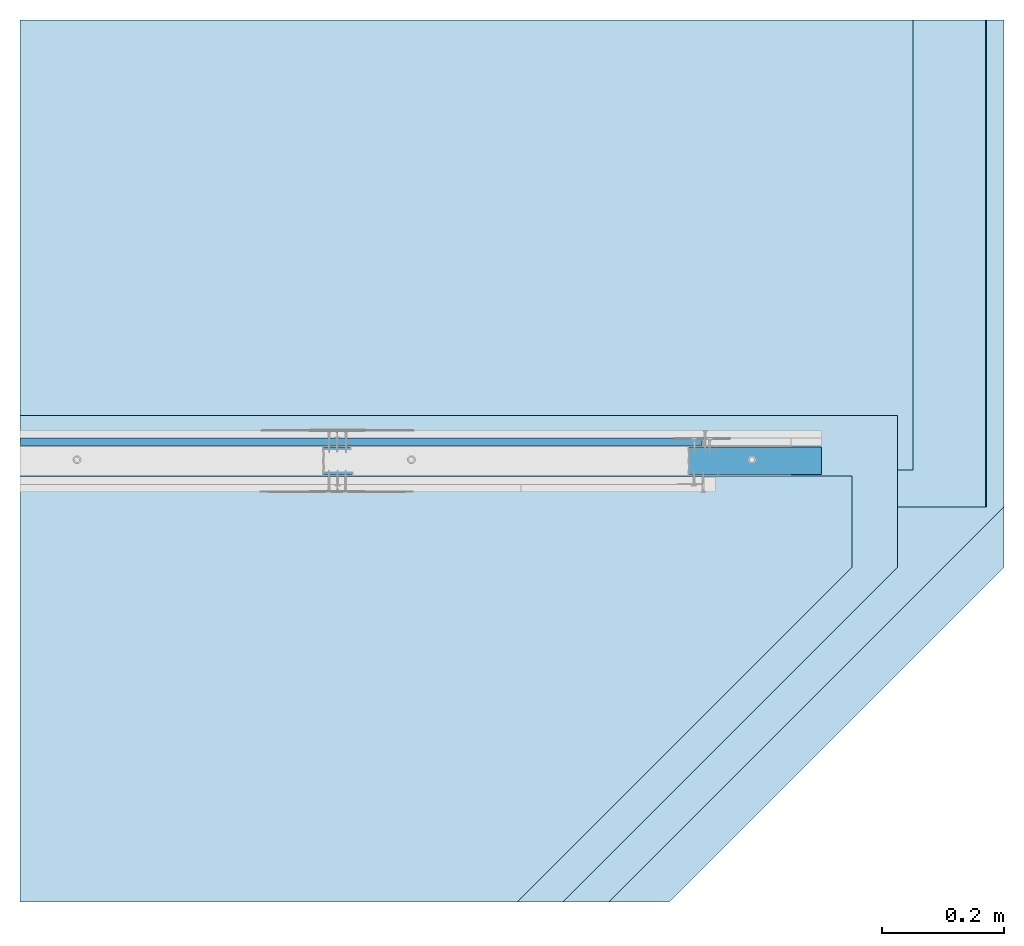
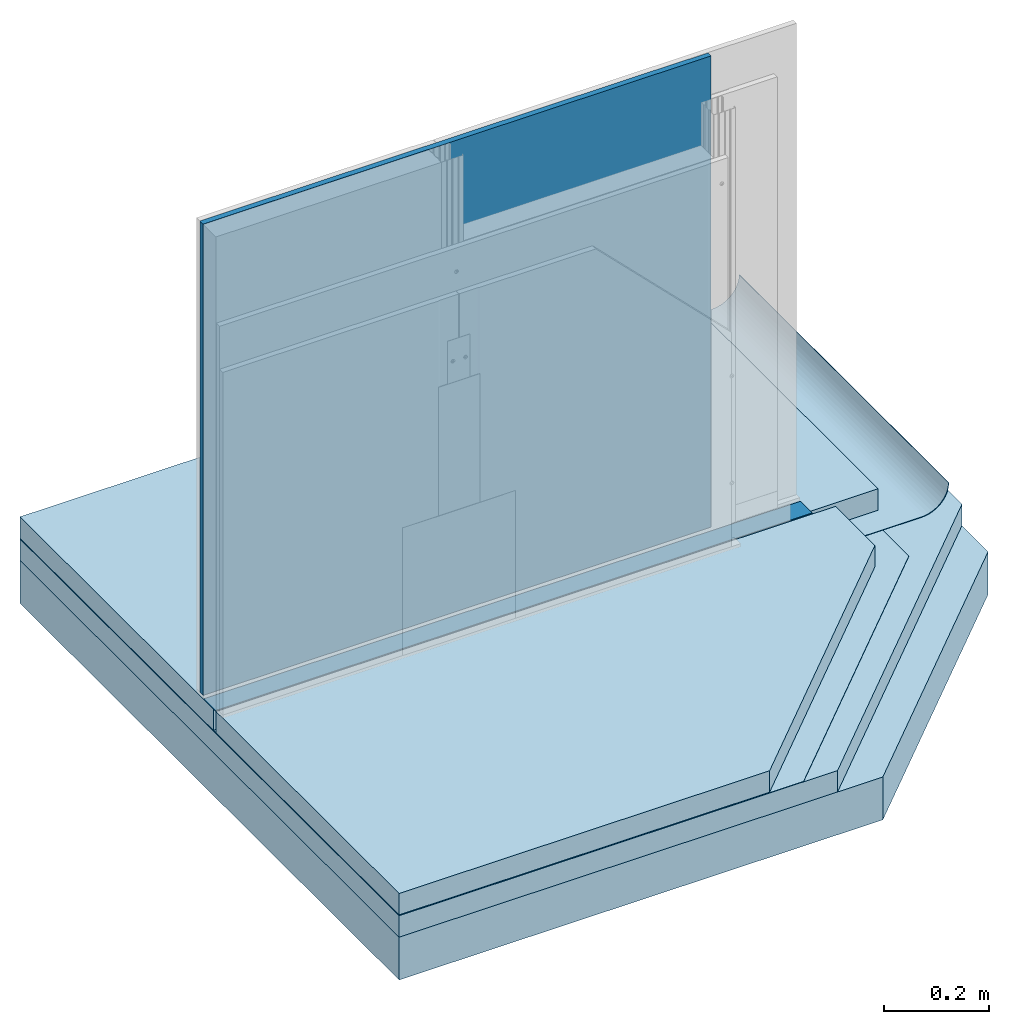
# One storey, part 1 of 36: 6 slabs, 2 walls.
"""IFC2X3 building model written with IfcOpenShell, lengths in millimetres."""

import ifcopenshell
import ifcopenshell.guid

model = None  # the IFC model being written
_history = None  # IfcOwnerHistory: only IFC2X3 demands one
_inside = {}  # id of a spatial element -> (the spatial element, [elements in it])
_under = {}  # id of a project, library or spatial element -> (it, [spatial elements below it])
_declared = {}  # id of a project -> (the project, [libraries it declares])
_typed = {}  # id of a type object -> (the type object, [elements of that type])
_made_of = {}  # id of a material, layer set ... -> (it, [elements and type objects made of it])


def new_model(schema):
    """Start an empty IFC model of exactly this schema.

    Asked for "IFC4X3", IfcOpenShell would pick the latest addendum, in which some entities
    have other attributes; the version numbers below select the first issue.
    IFC2X3 requires an IfcOwnerHistory on every rooted entity: one is made here for all.
    """
    global model, _history
    if schema == "IFC4X3":
        model = ifcopenshell.file(schema_version=(4, 3, 0, 0))
    else:
        model = ifcopenshell.file(schema=schema)
    _inside.clear()
    _under.clear()
    _declared.clear()
    _typed.clear()
    _made_of.clear()
    _history = None
    if model.schema == "IFC2X3":
        org = make("IfcOrganization", Name="unknown")
        user = make(
            "IfcPersonAndOrganization",
            ThePerson=make("IfcPerson", FamilyName="unknown"),
            TheOrganization=org,
        )
        app = make(
            "IfcApplication",
            ApplicationDeveloper=org,
            Version="unknown",
            ApplicationFullName="unknown",
            ApplicationIdentifier="unknown",
        )
        _history = make(
            "IfcOwnerHistory",
            OwningUser=user,
            OwningApplication=app,
            ChangeAction="ADDED",
            CreationDate=0,
        )
    return model


def make(cls, **values):
    """One entity of the class cls with the attributes given. An attribute that is None is left unset."""
    return model.create_entity(
        cls, **{name: value for name, value in values.items() if value is not None}
    )


def entity(cls, *values):
    """Any entity or typed value of the class cls, its attributes in the order of the schema. None: left unset."""
    e = model.create_entity(cls)
    for i, value in enumerate(values):
        if value is not None:
            e[i] = value
    return e


def rooted(cls, **values):
    """An entity with a GlobalId (a new one), such as an element, a storey or a relation."""
    return make(cls, GlobalId=ifcopenshell.guid.new(), OwnerHistory=_history, **values)


def si_unit(unit_type, name, prefix=None):
    """IfcSIUnit, for example si_unit("LENGTHUNIT", "METRE", prefix="MILLI")."""
    return make("IfcSIUnit", UnitType=unit_type, Prefix=prefix, Name=name)


def converted_unit(unit_type, name, factor, base, dimensions=None, offset=None):
    """IfcConversionBasedUnit, such as the inch: factor (a typed value) times the base unit."""
    return make(
        "IfcConversionBasedUnit"
        if offset is None
        else "IfcConversionBasedUnitWithOffset",
        ConversionOffset=offset,
        Dimensions=None
        if dimensions is None
        else entity("IfcDimensionalExponents", *dimensions),
        UnitType=unit_type,
        Name=name,
        ConversionFactor=make(
            "IfcMeasureWithUnit", ValueComponent=factor, UnitComponent=base
        ),
    )


def assignment(units):
    """IfcUnitAssignment: the units of a project."""
    return None if units is None else make("IfcUnitAssignment", Units=units)


def point(xyz):
    """IfcCartesianPoint."""
    return None if xyz is None else make("IfcCartesianPoint", Coordinates=xyz)


def direction(xyz):
    """IfcDirection."""
    return None if xyz is None else make("IfcDirection", DirectionRatios=xyz)


def frame(location, z_axis=None, x_axis=None):
    """IfcAxis2Placement3D, a coordinate frame: its origin and axes. An axis left out is left unset."""
    return make(
        "IfcAxis2Placement3D",
        Location=point(location),
        Axis=direction(z_axis),
        RefDirection=direction(x_axis),
    )


def origin():
    """The frame at (0, 0, 0) with its axes left unset."""
    return frame((0.0, 0.0, 0.0))


def origin_with_axes():
    """The frame at (0, 0, 0) with the z axis (0, 0, 1) and the x axis (1, 0, 0) written out."""
    return frame((0.0, 0.0, 0.0), z_axis=(0.0, 0.0, 1.0), x_axis=(1.0, 0.0, 0.0))


def place(relative_to, where):
    """IfcLocalPlacement: puts the frame where relative to a parent placement (None: the world)."""
    return make(
        "IfcLocalPlacement", PlacementRelTo=relative_to, RelativePlacement=where
    )


def context(
    kind, dimensions, precision=None, world=None, true_north=None, identifier=None
):
    """IfcGeometricRepresentationContext, for example the 3D "Model" context."""
    return make(
        "IfcGeometricRepresentationContext",
        ContextIdentifier=identifier,
        ContextType=kind,
        CoordinateSpaceDimension=dimensions,
        Precision=precision,
        WorldCoordinateSystem=world,
        TrueNorth=true_north,
    )


def project(units=None, contexts=None):
    """IfcProject with its units and contexts."""
    return rooted(
        "IfcProject",
        Name="project",
        RepresentationContexts=contexts,
        UnitsInContext=assignment(units),
    )


def spatial(cls, under=None, at=None, **own):
    """A site, building, storey or space (cls), placed at a placement, below another one or the project."""
    s = rooted(cls, ObjectPlacement=at, **own)
    if under is not None:
        _under.setdefault(under.id(), (under, []))[1].append(s)
    return s


def faces_of(points, faces, orient=None, outer=None):
    """IfcFace entities. A face is a list of loops; a loop is a list of indices into points, from 0.

    orient and outer hold one flag for each loop. By default every Orientation is true, the
    first loop of a face is its IfcFaceOuterBound and the others are IfcFaceBound.
    """
    made = []
    for i, loops in enumerate(faces):
        bounds = []
        for j, loop in enumerate(loops):
            is_outer = j == 0 if outer is None else outer[i][j]
            bounds.append(
                make(
                    "IfcFaceOuterBound" if is_outer else "IfcFaceBound",
                    Bound=make("IfcPolyLoop", Polygon=[points[k] for k in loop]),
                    Orientation=True if orient is None else orient[i][j],
                )
            )
        made.append(make("IfcFace", Bounds=bounds))
    return made


def faceted_brep(points, faces, orient=None, outer=None, voids=None):
    """IfcFacetedBrep: a solid bounded by flat faces; with voids (closed shells), ...WithVoids."""
    shared = [point(p) for p in points]
    hull = make("IfcClosedShell", CfsFaces=faces_of(shared, faces, orient, outer))
    if voids is None:
        return make("IfcFacetedBrep", Outer=hull)
    return make(
        "IfcFacetedBrepWithVoids",
        Outer=hull,
        Voids=[
            make(cls, CfsFaces=faces_of(shared, fs, o, b)) for cls, fs, o, b in voids
        ],
    )


def shape(context_of_items, identifier, shape_type, items):
    """IfcShapeRepresentation: the items that make up one representation, for example the "Body"."""
    return make(
        "IfcShapeRepresentation",
        ContextOfItems=context_of_items,
        RepresentationIdentifier=identifier,
        RepresentationType=shape_type,
        Items=items,
    )


def made_of(thing, what):
    """Note that an element or type object is made of a material, layer set ...; save() writes the relation."""
    if what is not None:
        _made_of.setdefault(what.id(), (what, []))[1].append(thing)
    return thing


def element(
    cls,
    number,
    at=None,
    inside=None,
    cuts=None,
    type_object=None,
    material=None,
    context=None,
    identifier="Body",
    shape_type=None,
    held_by="IfcProductDefinitionShape",
    body=None,
    shapes=None,
    **own,
):
    """One element of the class cls, such as IfcWall. Its Tag is "e" and its number.

    at: its placement. inside: the storey or other place that contains it. cuts: it is an
    opening in that element (IfcRelVoidsElement). A single representation is given by context,
    identifier, shape_type and body (its items); several are given by shapes. held_by: the class
    of the entity that holds the representations. save() writes the other relations.
    """
    e = rooted(cls, Tag="e%d" % number, ObjectPlacement=at, **own)
    if body is not None:
        shapes = [shape(context, identifier, shape_type, body)]
    if shapes is not None:
        e.Representation = make(held_by, Representations=shapes)
    if inside is not None:
        _inside.setdefault(inside.id(), (inside, []))[1].append(e)
    if cuts is not None:
        rooted(
            "IfcRelVoidsElement", RelatingBuildingElement=cuts, RelatedOpeningElement=e
        )
    if type_object is not None:
        _typed.setdefault(type_object.id(), (type_object, []))[1].append(e)
    return made_of(e, material)


def aggregate(whole, parts):
    """IfcRelAggregates: a whole, such as a stair, and the parts it consists of."""
    return rooted("IfcRelAggregates", RelatingObject=whole, RelatedObjects=parts)


def save(model, path):
    """Write the relations noted so far, then the file.

    IfcRelAggregates (storeys below a building ...), IfcRelContainedInSpatialStructure (elements
    in a storey), IfcRelDefinesByType, IfcRelAssociatesMaterial and IfcRelDeclares: one each for
    every whole, place, type object, material and project.
    """
    for whole, parts in _under.values():
        aggregate(whole, parts)
    for where, things in _inside.values():
        rooted(
            "IfcRelContainedInSpatialStructure",
            RelatedElements=things,
            RelatingStructure=where,
        )
    for kind, things in _typed.values():
        rooted("IfcRelDefinesByType", RelatedObjects=things, RelatingType=kind)
    for what, things in _made_of.values():
        rooted("IfcRelAssociatesMaterial", RelatedObjects=things, RelatingMaterial=what)
    for by, libraries in _declared.values():
        rooted("IfcRelDeclares", RelatingContext=by, RelatedDefinitions=libraries)
    model.write(path)


model = new_model("IFC2X3")

# Units and contexts
model_context = context("Model", 3, precision=1e-05, world=origin(), true_north=direction((0.0, 1.0, 0.0)))
ifc_project = project(units=[si_unit("LENGTHUNIT", "METRE", prefix="MILLI"), si_unit("AREAUNIT", "SQUARE_METRE"), si_unit("VOLUMEUNIT", "CUBIC_METRE"), converted_unit("PLANEANGLEUNIT", "DEGREE", entity("IfcPlaneAngleMeasure", 0.01745), si_unit("PLANEANGLEUNIT", "RADIAN"), dimensions=[0, 0, 0, 0, 0, 0, 0]), si_unit("SOLIDANGLEUNIT", "STERADIAN"), si_unit("MASSUNIT", "GRAM"), si_unit("TIMEUNIT", "SECOND"), si_unit("THERMODYNAMICTEMPERATUREUNIT", "DEGREE_CELSIUS"), si_unit("LUMINOUSINTENSITYUNIT", "LUMEN")], contexts=[model_context])

# Site, building, storey
site_placement = place(None, origin_with_axes())
site = spatial("IfcSite", under=ifc_project, at=site_placement, Name="Default Site", CompositionType="ELEMENT")
building_placement = place(site_placement, origin_with_axes())
building = spatial("IfcBuilding", under=site, at=building_placement, Name="Default Building", CompositionType="ELEMENT")
storey_placement = place(building_placement, origin_with_axes())
storey = spatial("IfcBuildingStorey", under=building, at=storey_placement, Name="Default Building Storey", CompositionType="ELEMENT", Elevation=0.0)

# Slabs
slab_1_placement = place(storey_placement, frame((3516.951496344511, -1288.142300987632, 6.584025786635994), z_axis=(7.62017609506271e-14, 6.858158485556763e-13, 1.0), x_axis=(1.0, 9.714451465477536e-17, -7.62017609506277e-14)))
element("IfcSlab", 1, at=slab_1_placement, inside=storey, Name="STROP", context=model_context, shape_type="Brep", body=[
    faceted_brep([(226.0891218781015, 3110.283223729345, -4.200000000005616), (-323.9108781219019, 2560.283223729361, -4.200000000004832), (-323.9108781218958, 2560.283223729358, -104.1999999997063), (226.0891218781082, 3110.283223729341, -104.1999999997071), (-1391.926362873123, 2560.283223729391, -104.2000000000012), (-1391.926362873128, 2560.28322372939, -4.200000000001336), (-1391.926362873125, 4010.283223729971, -104.2000000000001), (226.0891218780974, 4010.283223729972, -104.2), (-1391.926362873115, 4010.283223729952, -4.199999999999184), (226.089121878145, 4010.283223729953, -4.200000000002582)], [[[0, 1, 2, 3]], [[4, 2, 1, 5]], [[6, 7, 3, 2, 4]], [[8, 5, 1, 0, 9]], [[0, 3, 7, 9]], [[6, 8, 9, 7]], [[6, 4, 5, 8]]]),
])
slab_2_placement = place(storey_placement, frame((3266.951496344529, -1288.142300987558, 158.5840257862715), z_axis=(7.620176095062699e-14, 6.858158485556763e-13, 1.0), x_axis=(1.0, 9.714451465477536e-17, -7.62017609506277e-14)))
element("IfcSlab", 2, at=slab_2_placement, inside=storey, Name="Wylewka betonowa WEBER", context=model_context, shape_type="Brep", body=[
    faceted_brep([(-1141.926362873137, 3260.703605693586, -54.19999999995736), (226.0891218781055, 3260.703605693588, -54.19999999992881), (226.0891218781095, 3260.703605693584, -104.1999999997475), (-1141.926362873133, 3260.703605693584, -104.199999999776), (226.0891218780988, 3110.283223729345, -54.2000000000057), (-323.9108781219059, 2560.283223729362, -54.20000000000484), (-323.9108781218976, 2560.283223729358, -104.1999999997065), (226.0891218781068, 3110.283223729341, -104.199999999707), (-1141.926362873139, 2560.283223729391, -104.1999999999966), (-1141.926362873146, 2560.283223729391, -54.19999999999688)], [[[0, 1, 2, 3]], [[4, 5, 6, 7]], [[8, 6, 5, 9]], [[8, 3, 2, 7, 6]], [[4, 1, 0, 9, 5]], [[7, 2, 1, 4]], [[0, 3, 8, 9]]]),
])
slab_3_placement = place(storey_placement, frame((3366.951496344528, -1288.14230098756, 158.5840257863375), z_axis=(7.6201760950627e-14, 6.858158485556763e-13, 1.0), x_axis=(1.0, 9.714451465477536e-17, -7.62017609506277e-14)))
element("IfcSlab", 3, at=slab_3_placement, inside=storey, Name="Wylewka betonowa WEBER", context=model_context, shape_type="Brep", body=[
    faceted_brep([(226.0891218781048, 3270.703605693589, -54.20000000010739), (-1241.926362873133, 3270.703605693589, -54.20000000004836), (-1241.926362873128, 3270.703605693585, -104.199999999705), (226.0891218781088, 3270.703605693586, -104.199999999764), (-1241.926362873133, 4010.283223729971, -104.2000000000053), (226.0891218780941, 4010.283223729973, -104.1999999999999), (-1241.926362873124, 4010.283223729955, -54.20000000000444), (226.0891218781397, 4010.283223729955, -54.20000000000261)], [[[0, 1, 2, 3]], [[4, 5, 3, 2]], [[6, 1, 0, 7]], [[0, 3, 5, 7]], [[4, 6, 7, 5]], [[4, 2, 1, 6]]]),
])
slab_4_placement = place(storey_placement, frame((3416.951496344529, -1288.14230098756, 106.5840257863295), z_axis=(7.620176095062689e-14, 6.858158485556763e-13, 1.0), x_axis=(1.0, 9.714451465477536e-17, -7.62017609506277e-14)))
element("IfcSlab", 4, at=slab_4_placement, inside=storey, Name="Wełna mineralna szklana lub skalna ISOVER", context=model_context, shape_type="Brep", body=[
    faceted_brep([(326.0891218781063, 3210.283223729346, -104.1999999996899), (326.0891218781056, 4010.283223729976, -104.1999999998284), (326.0891218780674, 4010.283223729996, -54.20000000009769), (326.0891218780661, 3210.283223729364, -54.19999999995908), (-1291.926362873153, 4010.283223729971, -54.2000000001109), (-1291.92636287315, 4010.283223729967, -104.1999999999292), (-323.9108781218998, 2560.283223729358, -104.1999999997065), (-323.9108781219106, 2560.283223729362, -54.20000000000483), (-1291.926362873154, 2560.283223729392, -104.2000000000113), (-1291.926362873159, 2560.283223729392, -54.20000000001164)], [[[0, 1, 2, 3]], [[4, 2, 1, 5]], [[6, 0, 3, 7]], [[8, 6, 7, 9]], [[5, 1, 0, 6, 8]], [[7, 3, 2, 4, 9]], [[4, 5, 8, 9]]]),
])
slab_5_placement = place(storey_placement, frame((3714.040618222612, 1821.630974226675, 53.38402578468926), z_axis=(0.0, 0.0, 1.0), x_axis=(-3.885780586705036e-16, 1.0, 0.0)))
element("IfcSlab", 5, at=slab_5_placement, inside=storey, Name="Folia budowlana PE ISOVER Stopair®", context=model_context, shape_type="Brep", body=[
    faceted_brep([(99.99999999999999, 60.9999999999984, 0.9999999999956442), (900.4900514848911, 60.99999999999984, 0.9999999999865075), (900.4900514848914, 1589.015484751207, 0.9999999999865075), (100.0000000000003, 1589.015484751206, 0.9999999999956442), (100.0000000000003, 1589.015484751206, -4.354028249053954e-12), (900.4900514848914, 1589.015484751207, -1.349071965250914e-11), (99.99999999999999, 52.16842846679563, 0.5133083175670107), (99.99999999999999, 59.99999999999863, -4.354028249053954e-12), (900.4900514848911, 60.00000000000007, -1.349071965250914e-11), (900.4900514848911, 52.16842846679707, 0.513308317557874), (99.99999999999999, 44.4708572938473, 2.044450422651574), (900.4900514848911, 44.47085729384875, 2.044450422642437), (99.99999999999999, 37.03899405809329, 4.567228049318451), (900.4900514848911, 37.03899405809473, 4.567228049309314), (99.99999999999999, 29.99999999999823, 8.038475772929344), (900.4900514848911, 29.99999999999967, 8.038475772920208), (99.99999999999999, 23.4743142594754, 12.39879958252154), (900.4900514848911, 23.47431425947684, 12.3987995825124), (99.99999999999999, 17.57359312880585, 17.57359312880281), (900.4900514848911, 17.57359312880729, 17.57359312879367), (99.99999999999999, 12.39879958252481, 23.4743142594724), (900.4900514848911, 12.39879958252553, 23.47431425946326), (99.99999999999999, 8.038475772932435, 29.99999999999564), (900.4900514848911, 8.038475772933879, 29.9999999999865), (100.0000000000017, 4.567228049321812, 37.03899405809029), (900.4900514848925, 4.567228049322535, 37.03899405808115), (100.0000000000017, 2.044450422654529, 44.47085729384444), (900.4900514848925, 2.044450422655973, 44.4708572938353), (100.0000000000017, 0.5133083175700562, 52.16842846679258), (900.4900514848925, 0.5133083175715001, 52.16842846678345), (100.0000000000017, -1.443822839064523e-12, 59.99999999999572), (900.4900514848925, 0.0, 59.99999999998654), (100.0000000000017, 1.065543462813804, 59.99999999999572), (900.4900514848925, 1.065543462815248, 59.99999999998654), (100.0000000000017, 1.513308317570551, 53.16842846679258), (900.4900514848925, 1.513308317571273, 53.16842846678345), (100.0000000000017, 3.044450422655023, 45.47085729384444), (900.4900514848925, 3.044450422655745, 45.4708572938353), (100.0000000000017, 5.567228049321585, 38.03899405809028), (900.4900514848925, 5.567228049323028, 38.03899405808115), (99.99999999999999, 9.038475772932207, 30.99999999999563), (900.4900514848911, 9.038475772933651, 30.9999999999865), (99.99999999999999, 13.39879958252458, 24.47431425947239), (900.4900514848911, 13.39879958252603, 24.47431425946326), (99.99999999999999, 18.57359312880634, 18.5735931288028), (900.4900514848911, 18.57359312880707, 18.57359312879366), (99.99999999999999, 24.47431425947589, 13.39879958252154), (900.4900514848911, 24.47431425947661, 13.3987995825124), (99.99999999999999, 30.99999999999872, 9.038475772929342), (900.4900514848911, 31.00000000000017, 9.038475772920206), (99.99999999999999, 38.03899405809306, 5.567228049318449), (900.4900514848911, 38.0389940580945, 5.567228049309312), (99.99999999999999, 45.47085729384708, 3.044450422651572), (900.4900514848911, 45.47085729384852, 3.044450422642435), (99.99999999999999, 53.1684284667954, 1.513308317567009), (900.4900514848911, 53.16842846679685, 1.513308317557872)], [[[0, 1, 2, 3]], [[4, 3, 2, 5]], [[6, 7, 8, 9]], [[10, 6, 9, 11]], [[12, 10, 11, 13]], [[14, 12, 13, 15]], [[16, 14, 15, 17]], [[18, 16, 17, 19]], [[20, 18, 19, 21]], [[22, 20, 21, 23]], [[24, 22, 23, 25]], [[26, 24, 25, 27]], [[28, 26, 27, 29]], [[30, 28, 29, 31]], [[32, 30, 31, 33]], [[34, 32, 33, 35]], [[36, 34, 35, 37]], [[38, 36, 37, 39]], [[40, 38, 39, 41]], [[42, 40, 41, 43]], [[44, 42, 43, 45]], [[46, 44, 45, 47]], [[48, 46, 47, 49]], [[50, 48, 49, 51]], [[52, 50, 51, 53]], [[54, 52, 53, 55]], [[0, 54, 55, 1]], [[7, 4, 5, 8]], [[8, 5, 2, 1, 55, 53, 51, 49, 47, 45, 43, 41, 39, 37, 35, 33, 31, 29, 27, 25, 23, 21, 19, 17, 15, 13, 11, 9]], [[4, 7, 6, 10, 12, 14, 16, 18, 20, 22, 24, 26, 28, 30, 32, 34, 36, 38, 40, 42, 44, 46, 48, 50, 52, 54, 0, 3]]]),
])
slab_6_placement = place(storey_placement, frame((3325.296962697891, 1171.140922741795, 52.38402578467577), z_axis=(0.0, 0.0, 1.0), x_axis=(-3.885780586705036e-16, 1.0, 0.0)))
element("IfcSlab", 6, at=slab_6_placement, inside=storey, Name="Folia budowlana PE ISOVER Stopair®", context=model_context, shape_type="Brep", body=[
    faceted_brep([(650.980102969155, -242.7237584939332, 0.99999999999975), (101.0000000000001, 307.2563444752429, 1.000000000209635), (101.0000000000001, 307.2563444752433, 2.098731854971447e-10), (650.980102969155, -242.7237584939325, 0.0), (101.0000000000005, 1200.271829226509, 0.9999999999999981), (900.4900514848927, -242.7237584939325, 0.9999999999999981), (900.4900514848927, 1200.271829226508, 0.9999999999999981), (101.0000000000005, 1200.271829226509, 0.0), (900.4900514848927, -242.7237584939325, 0.0), (900.4900514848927, 1200.271829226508, 0.0)], [[[0, 1, 2, 3]], [[4, 1, 0, 5, 6]], [[7, 2, 1, 4]], [[8, 3, 2, 7, 9]], [[5, 8, 9, 6]], [[4, 6, 9, 7]], [[0, 3, 8, 5]]]),
])

# Walls
wall_1_placement = place(storey_placement, frame((3247.741854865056, 5452.424146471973, 110.3903952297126), z_axis=(6.44634805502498e-14, -6.858158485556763e-13, 1.0), x_axis=(1.0, -1.14833748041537e-16, -9.007748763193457e-14)))
element("IfcWall", 7, at=wall_1_placement, inside=storey, Name="Taśma uszczelniająca piankowa RIGIPS", context=model_context, shape_type="Brep", body=[
    faceted_brep([(-1122.716721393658, -3477.783223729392, -5.000000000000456), (-1122.716721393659, -3477.862841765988, -6.00636944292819), (-1122.716721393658, -3432.691889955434, -5.864971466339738), (-1122.716721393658, -3432.783223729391, -5.000000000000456), (195.2987633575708, -3477.862841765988, -6.006369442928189), (195.2987633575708, -3477.783223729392, -5.000000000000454), (195.2987633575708, -3432.783223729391, -5.000000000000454), (195.2987633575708, -3432.691889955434, -5.864971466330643)], [[[0, 1, 2, 3]], [[4, 5, 6, 7]], [[5, 0, 3, 6]], [[6, 3, 2, 7]], [[7, 2, 1, 4]], [[4, 1, 0, 5]]]),
])
wall_2_placement = place(storey_placement, frame((3246.843862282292, 2022.140922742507, 1517.555457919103), z_axis=(0.0, 0.0, 1.0), x_axis=(-1.0, -8.049116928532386e-16, 0.0)))
element("IfcWall", 8, at=wall_2_placement, inside=storey, Name="Płyta gipsowo-kartonowa RIGIPS PRO (4PRO™)", context=model_context, shape_type="Brep", body=[
    faceted_brep([(1121.818728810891, -12.50000000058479, -305.5554579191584), (1121.818728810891, 3.609557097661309e-13, -305.5554579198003), (1121.818728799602, -3.495134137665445e-09, -1405.557039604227), (1121.818728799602, -12.50000000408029, -1405.557039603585), (44.99999999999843, -12.50000000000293, -305.5554579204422), (44.99999999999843, -12.50000000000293, -1405.557039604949), (40.99999999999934, -11.50000000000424, -305.5554579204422), (40.99999999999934, -11.50000000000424, -1405.557039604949), (0.9999999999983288, -11.5000000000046, -305.5554579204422), (0.9999999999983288, -11.5000000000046, -1405.557039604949), (0.7411809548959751, -11.46592582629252, -305.5554579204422), (0.7411809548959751, -11.46592582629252, -1405.557039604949), (0.4999999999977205, -11.3660254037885, -305.5554579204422), (0.4999999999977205, -11.3660254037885, -1405.557039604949), (0.29289321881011, -11.20710678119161, -305.5554579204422), (0.29289321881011, -11.20710678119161, -1405.557039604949), (0.1339745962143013, -11.00000000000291, -305.5554579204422), (0.1339745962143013, -11.00000000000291, -1405.557039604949), (0.03407417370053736, -10.7588190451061, -305.5554579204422), (0.03407417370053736, -10.7588190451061, -1405.557039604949), (-2.887645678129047e-12, -10.50000000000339, -305.5554579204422), (-2.887645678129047e-12, -10.50000000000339, -1405.557039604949), (0.0, 0.0, -305.5554579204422), (0.0, 0.0, -1405.557039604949)], [[[0, 1, 2, 3]], [[4, 0, 3, 5]], [[6, 4, 5, 7]], [[8, 6, 7, 9]], [[10, 8, 9, 11]], [[12, 10, 11, 13]], [[14, 12, 13, 15]], [[16, 14, 15, 17]], [[18, 16, 17, 19]], [[20, 18, 19, 21]], [[22, 20, 21, 23]], [[1, 22, 23, 2]], [[2, 23, 21, 19, 17, 15, 13, 11, 9, 7, 5, 3]], [[0, 4, 6, 8, 10, 12, 14, 16, 18, 20, 22, 1]]]),
])

save(model, "model.ifc")
